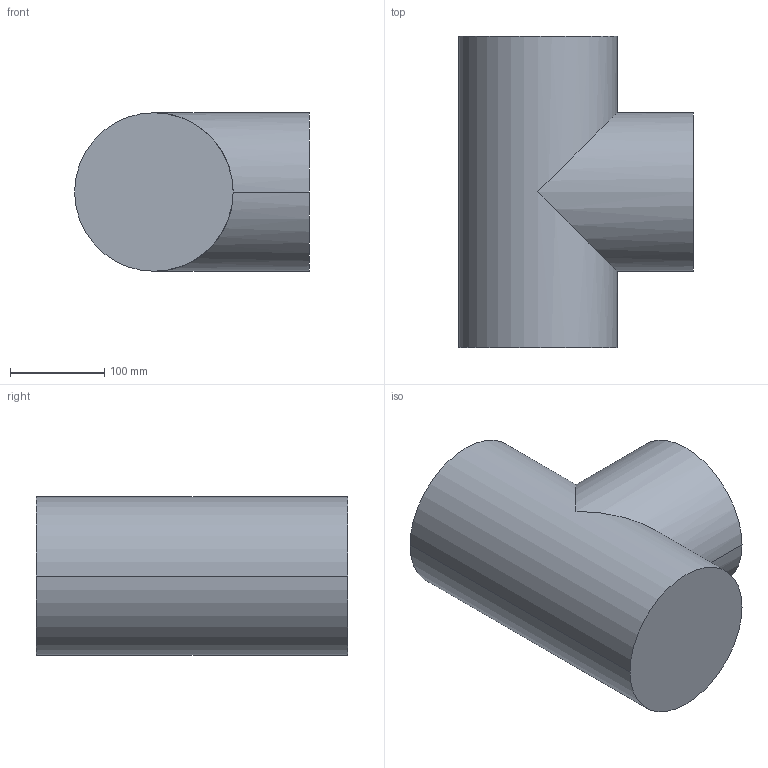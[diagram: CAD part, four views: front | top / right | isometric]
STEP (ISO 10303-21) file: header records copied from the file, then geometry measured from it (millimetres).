
FILE_DESCRIPTION (( 'STEP AP203' ), '1' );
FILE_NAME ('TEE_06.0 (150)_20-A.STEP', '2014-04-29T17:41:39', ( '' ), ( '' ), 'SwSTEP 2.0', 'SolidWorks 2012', '' );
FILE_SCHEMA (( 'CONFIG_CONTROL_DESIGN' ));
Length unit declared in the file: inch
Products named in the file (1): TEE_06.0 (150)_20-A
Bounding box: 249.24 x 330.2 x 168.28 mm (x, y, z)
Volume: 9427009.5 mm3; surface area: 271927.3 mm2
Topology: 1 solids, 1 shells, 7 faces, 15 edges, 10 vertices
Faces by surface type: cylinder 4, plane 3
Entity records: 274 total; most frequent: CARTESIAN_POINT 45, DIRECTION 33, ORIENTED_EDGE 30, EDGE_CURVE 15, AXIS2_PLACEMENT_3D 14, VERTEX_POINT 10, PERSON_AND_ORGANIZATION 8, FACE_OUTER_BOUND 7
